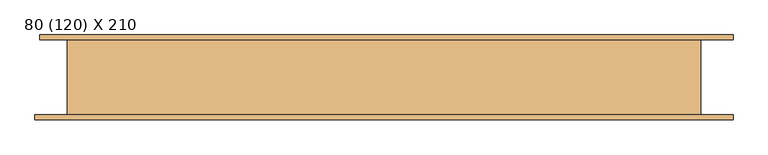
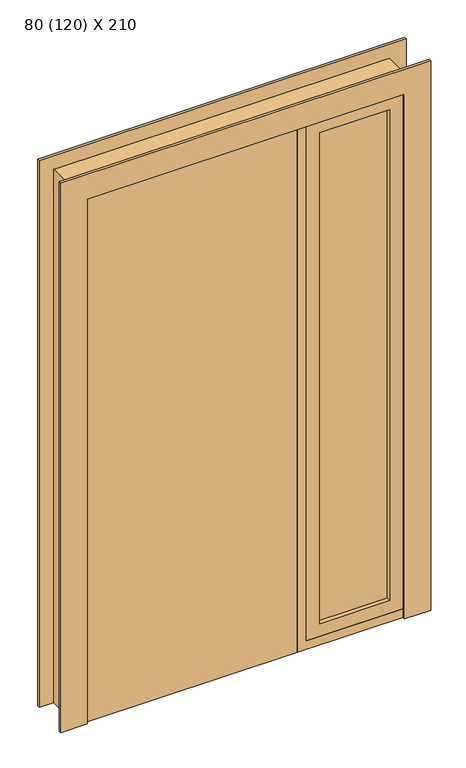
"""IFC4 building model written with IfcOpenShell, lengths in millimetres: door geometry, PORTA DE ABRIR - 1 FOLHA + LUZ LATERAL - 1 FOLHA : 80 (120) X 210."""

from ifc_helpers import new_model, si_unit, frame, origin, origin_with_axes, place, context, project, spatial, polyline, outline, extrude, faceted_brep, source, transform, mapped, element, save


def door_80_120_x_210_19d05934(model_context):
    return source(origin(), model_context, "Body", "SolidModel", [
        extrude(outline(polyline([(530.0, -52.0), (530.0, -58.0), (265.0, -58.0), (265.0, -52.0), (530.0, -52.0)])), frame((0.0, 0.0, 85.0), z_axis=(0.0, 0.0, 1.0), x_axis=(1.0, 0.0, 0.0)), (0.0, 0.0, 1.0), 1965.0),
        extrude(outline(polyline([(2100.0, 580.0), (2100.0, 215.0), (35.0, 215.0), (35.0, 580.0), (2100.0, 580.0)]), holes=[polyline([(2050.0, 530.0), (85.0, 530.0), (85.0, 265.0), (2050.0, 265.0), (2050.0, 530.0)])]), frame((0.0, -75.0, 0.0), z_axis=(0.0, 1.0, 0.0), x_axis=(0.0, 0.0, 1.0)), (0.0, 0.0, 1.0), 40.0),
        extrude(outline(polyline([(180.0, -75.0), (-620.0, -75.0), (-620.0, -35.0), (180.0, -35.0), (180.0, -75.0)])), origin_with_axes(), (0.0, 0.0, 1.0), 2100.0),
        extrude(outline(polyline([(2090.0, 580.0), (0.0, 580.0), (0.0, 680.0), (2190.0, 680.0), (2190.0, -710.0), (0.0, -710.0), (0.0, -610.0), (2090.0, -610.0), (2090.0, 580.0)])), frame((0.0, 75.0, 0.0), z_axis=(0.0, 1.0, 0.0), x_axis=(0.0, 0.0, 1.0)), (0.0, 0.0, 1.0), 10.0),
        extrude(outline(polyline([(2100.0, -620.0), (2100.0, 580.0), (0.0, 580.0), (0.0, 680.0), (2200.0, 680.0), (2200.0, -720.0), (0.0, -720.0), (0.0, -620.0), (2100.0, -620.0)])), frame((0.0, -85.0, 0.0), z_axis=(0.0, 1.0, 0.0), x_axis=(0.0, 0.0, 1.0)), (0.0, 0.0, 1.0), 10.0),
        faceted_brep([(215.0, -75.0, 35.0), (580.0, -75.0, 35.0), (580.0, 75.0, 35.0), (215.0, 75.0, 35.0), (615.0, -75.0, 0.0), (615.0, -75.0, 2135.0), (-655.0, -75.0, 2135.0), (-655.0, -75.0, 0.0), (-620.0, -75.0, 0.0), (-620.0, -75.0, 2100.0), (180.0, -75.0, 2100.0), (180.0, -75.0, 0.0), (215.0, -75.0, 2100.0), (580.0, -75.0, 2100.0), (215.0, 75.0, 2100.0), (580.0, 75.0, 2100.0), (615.0, 75.0, 0.0), (615.0, 75.0, 2135.0), (-655.0, 75.0, 0.0), (-655.0, 75.0, 2135.0), (-610.0, 75.0, 0.0), (-610.0, -35.0, 0.0), (-620.0, -35.0, 0.0), (-620.0, -35.0, 2100.0), (180.0, -35.0, 2100.0), (180.0, -35.0, 0.0), (170.0, -35.0, 0.0), (170.0, 75.0, 0.0), (170.0, 75.0, 2090.0), (-610.0, 75.0, 2090.0), (170.0, -35.0, 2090.0), (-610.0, -35.0, 2090.0)], [[[0, 1, 2, 3]], [[4, 5, 6, 7, 8, 9, 10, 11], [1, 0, 12, 13]], [[3, 14, 12, 0]], [[1, 13, 15, 2]], [[5, 4, 16, 17]], [[18, 7, 6, 19]], [[18, 20, 21, 22, 8, 7]], [[8, 22, 23, 9]], [[24, 25, 11, 10]], [[4, 11, 25, 26, 27, 16]], [[27, 28, 29, 20, 18, 19, 17, 16], [3, 2, 15, 14]], [[28, 27, 26, 30]], [[21, 20, 29, 31]], [[22, 21, 31, 30, 26, 25, 24, 23]], [[13, 12, 14, 15]], [[5, 17, 19, 6]], [[29, 28, 30, 31]], [[23, 24, 10, 9]]]),
    ])


if __name__ == "__main__":
    model = new_model("IFC4")
    model_context = context("Model", 3, world=origin())
    ifc_project = project(units=[si_unit("LENGTHUNIT", "METRE", prefix="MILLI")], contexts=[model_context])
    site = spatial("IfcSite", under=ifc_project)
    building = spatial("IfcBuilding", under=site)
    placement = place(None, origin())
    door_80_120_x_210_shape = door_80_120_x_210_19d05934(model_context)
    element("IfcDoor", 1, ObjectType="PORTA DE ABRIR - 1 FOLHA + LUZ LATERAL - 1 FOLHA : 80 (120) X 210", at=placement, inside=building, context=model_context, shape_type="MappedRepresentation", body=[
        mapped(door_80_120_x_210_shape, transform((0.0, 0.0, 0.0), x_axis=(1.0, 0.0, 0.0), y_axis=(0.0, 1.0, 0.0), z_axis=(0.0, 0.0, 1.0))),
    ])
    save(model, "model.ifc")
